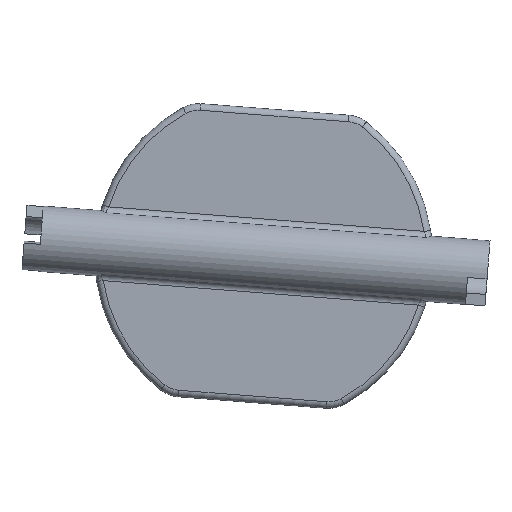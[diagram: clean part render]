
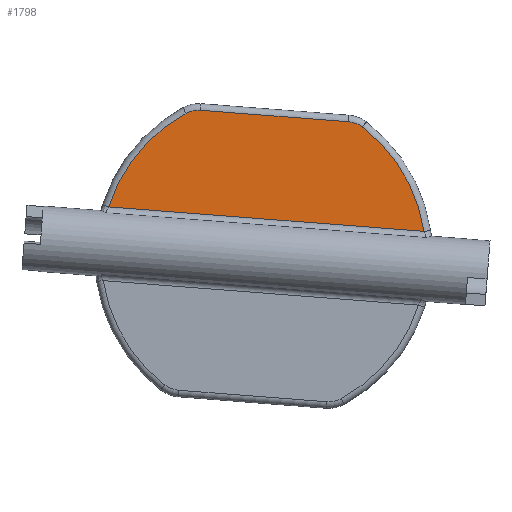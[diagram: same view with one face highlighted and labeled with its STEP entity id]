
A CAD part, front view. The second image highlights one B-rep face of the part: STEP entity #1798.
In plain terms, the highlighted planar face has unit normal (0, -1, 0).
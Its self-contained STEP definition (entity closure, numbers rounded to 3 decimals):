
#1=DIRECTION('',(-0.997,0.,0.077));
#2=VECTOR('',#1,48.354);
#3=CARTESIAN_POINT('',(325.717,-1.,168.133));
#4=LINE('',#3,#2);
#5=CARTESIAN_POINT('',(301.175,-1.,164.362));
#6=DIRECTION('',(0.,-1.,0.));
#7=DIRECTION('',(-0.478,0.,0.878));
#8=AXIS2_PLACEMENT_3D('',#5,#6,#7);
#10=CARTESIAN_POINT('',(291.219,-1.,182.659));
#11=DIRECTION('',(0.,-1.,0.));
#12=DIRECTION('',(0.077,0.,0.997));
#13=AXIS2_PLACEMENT_3D('',#10,#11,#12);
#15=DIRECTION('',(-0.997,0.,0.077));
#16=VECTOR('',#15,22.682);
#17=CARTESIAN_POINT('',(314.142,-1.,184.894));
#18=LINE('',#17,#16);
#19=CARTESIAN_POINT('',(313.833,-1.,180.906));
#20=DIRECTION('',(0.,-1.,0.));
#21=DIRECTION('',(0.608,0.,0.794));
#22=AXIS2_PLACEMENT_3D('',#19,#20,#21);
#24=CARTESIAN_POINT('',(301.175,-1.,164.362));
#25=DIRECTION('',(0.,-1.,0.));
#26=DIRECTION('',(0.988,0.,0.152));
#27=AXIS2_PLACEMENT_3D('',#24,#25,#26);
#57=CARTESIAN_POINT('',(277.508,-1.,171.872));
#81=CARTESIAN_POINT('',(325.717,-1.,168.133));
#1554=VERTEX_POINT('',#57);
#1557=VERTEX_POINT('',#81);
#1771=CARTESIAN_POINT('',(316.263,-1.,184.082));
#1772=VERTEX_POINT('',#1771);
#1773=CARTESIAN_POINT('',(314.142,-1.,184.894));
#1774=VERTEX_POINT('',#1773);
#1775=CARTESIAN_POINT('',(291.528,-1.,186.647));
#1776=VERTEX_POINT('',#1775);
#1777=CARTESIAN_POINT('',(289.307,-1.,186.173));
#1778=VERTEX_POINT('',#1777);
#1779=CARTESIAN_POINT('',(0.,-1.,0.));
#1780=DIRECTION('',(0.,1.,0.));
#1781=DIRECTION('',(1.,0.,0.));
#1782=AXIS2_PLACEMENT_3D('',#1779,#1780,#1781);
#1783=PLANE('',#1782);
#1785=ORIENTED_EDGE('',*,*,#1784,.T.);
#1787=ORIENTED_EDGE('',*,*,#1786,.F.);
#1789=ORIENTED_EDGE('',*,*,#1788,.F.);
#1791=ORIENTED_EDGE('',*,*,#1790,.F.);
#1793=ORIENTED_EDGE('',*,*,#1792,.F.);
#1795=ORIENTED_EDGE('',*,*,#1794,.F.);
#1796=EDGE_LOOP('',(#1785,#1787,#1789,#1791,#1793,#1795));
#1797=FACE_OUTER_BOUND('',#1796,.F.);
#1798=ADVANCED_FACE('',(#1797),#1783,.F.);
#9=CIRCLE('',#8,24.83);
#14=CIRCLE('',#13,4.);
#23=CIRCLE('',#22,4.);
#28=CIRCLE('',#27,24.83);
#1784=EDGE_CURVE('',#1557,#1554,#4,.T.);
#1786=EDGE_CURVE('',#1778,#1554,#9,.T.);
#1788=EDGE_CURVE('',#1776,#1778,#14,.T.);
#1790=EDGE_CURVE('',#1774,#1776,#18,.T.);
#1792=EDGE_CURVE('',#1772,#1774,#23,.T.);
#1794=EDGE_CURVE('',#1557,#1772,#28,.T.);
